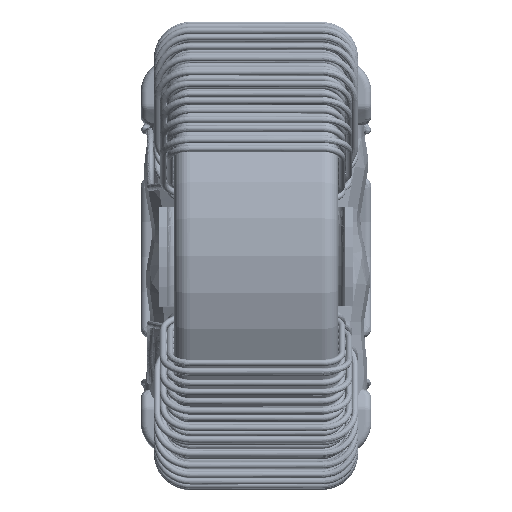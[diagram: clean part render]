
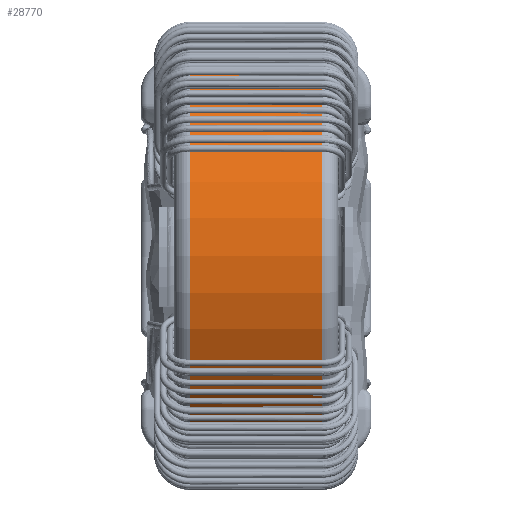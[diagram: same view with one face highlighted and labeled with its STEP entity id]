
A CAD part, top view. The second image highlights one B-rep face of the part: STEP entity #28770.
In plain terms, the highlighted cylindrical face has radius 6.5 mm (diameter 13 mm), a full revolution.
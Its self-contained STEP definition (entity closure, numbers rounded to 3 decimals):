
#1379=CYLINDRICAL_SURFACE('',#30767,6.5);
#5491=ORIENTED_EDGE('',*,*,#8123,.T.);
#5492=ORIENTED_EDGE('',*,*,#8122,.F.);
#8122=EDGE_CURVE('',#9860,#9860,#11119,.T.);
#8123=EDGE_CURVE('',#9861,#9861,#11120,.T.);
#9860=VERTEX_POINT('',#56059);
#9861=VERTEX_POINT('',#56062);
#11119=CIRCLE('',#30755,6.5);
#11120=CIRCLE('',#30757,6.5);
#13129=EDGE_LOOP('',(#5491));
#13130=EDGE_LOOP('',(#5492));
#16030=FACE_BOUND('',#13129,.T.);
#16031=FACE_BOUND('',#13130,.T.);
#28770=ADVANCED_FACE('',(#16030,#16031),#1379,.T.);
#30755=AXIS2_PLACEMENT_3D('',#56058,#34578,#34579);
#30757=AXIS2_PLACEMENT_3D('',#56061,#34582,#34583);
#30767=AXIS2_PLACEMENT_3D('',#56077,#34602,#34603);
#34578=DIRECTION('',(0.,1.,0.));
#34579=DIRECTION('',(0.,0.,1.));
#34582=DIRECTION('',(0.,1.,0.));
#34583=DIRECTION('',(0.,0.,1.));
#34602=DIRECTION('',(0.,1.,0.));
#34603=DIRECTION('',(0.,0.,1.));
#56058=CARTESIAN_POINT('',(-0.028,2.,8.84));
#56059=CARTESIAN_POINT('',(-0.028,2.,15.34));
#56061=CARTESIAN_POINT('',(-0.028,-2.,8.84));
#56062=CARTESIAN_POINT('',(-0.028,-2.,15.34));
#56077=CARTESIAN_POINT('',(-0.028,-2.5,8.84));
